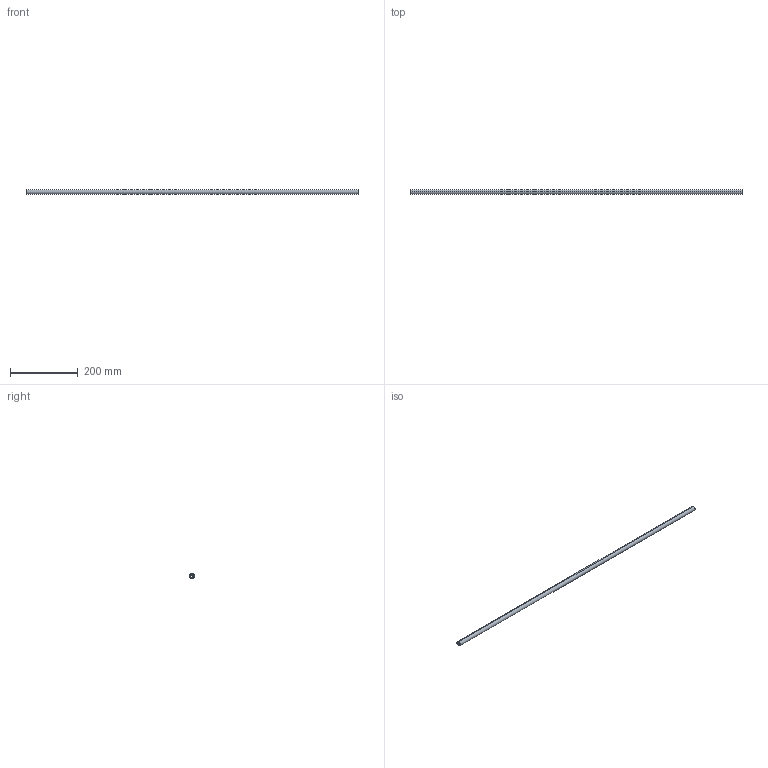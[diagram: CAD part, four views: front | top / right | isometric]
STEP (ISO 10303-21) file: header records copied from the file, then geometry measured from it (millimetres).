
FILE_DESCRIPTION (( 'STEP AP214' ), '1' );
FILE_NAME ('SyncronisationsstangeNova_Pro_KAB_1100_KS16.step', '2009-11-24T08:53:19', ( 'Grass' ), ( 'Grass GmbH' ), 'SwSTEP 2.0', 'SolidWorks 2009', '' );
FILE_SCHEMA (( 'AUTOMOTIVE_DESIGN' ));
Length unit declared in the file: millimetre
Products named in the file (1): SyncronisationsstangeNova_Pro_KAB_1100_KS16
Bounding box: 979 x 14 x 14 mm (x, y, z)
Volume: 105859 mm3; surface area: 68220.7 mm2
Topology: 1 solids, 1 shells, 15 faces, 39 edges, 26 vertices
Faces by surface type: cylinder 11, plane 4
Entity records: 513 total; most frequent: DIRECTION 93, CARTESIAN_POINT 81, ORIENTED_EDGE 78, EDGE_CURVE 39, AXIS2_PLACEMENT_3D 38, VERTEX_POINT 26, CIRCLE 22, VECTOR 17
